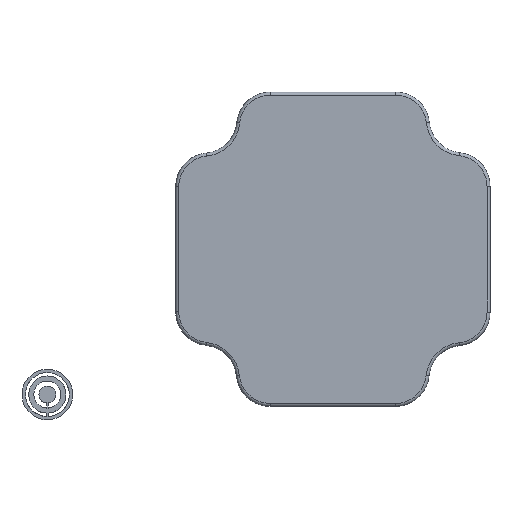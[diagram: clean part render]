
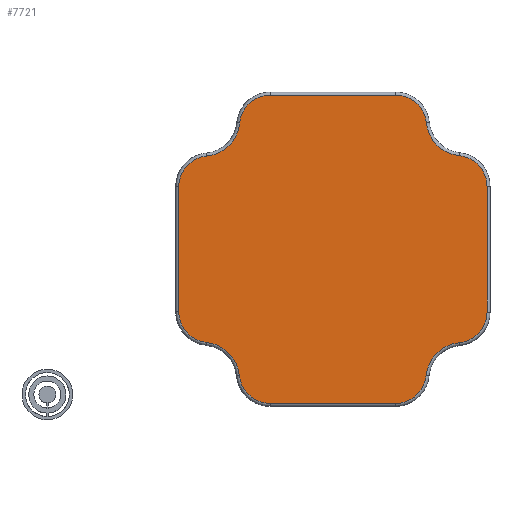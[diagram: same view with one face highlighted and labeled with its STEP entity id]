
A CAD part, front view. The second image highlights one B-rep face of the part: STEP entity #7721.
In plain terms, the highlighted planar face has unit normal (0, -1, 0).
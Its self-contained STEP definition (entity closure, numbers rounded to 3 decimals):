
#765=CIRCLE('',#8457,18.25);
#768=CIRCLE('',#8461,21.75);
#771=CIRCLE('',#8465,18.25);
#775=CIRCLE('',#8471,18.25);
#778=CIRCLE('',#8475,21.75);
#781=CIRCLE('',#8479,18.25);
#785=CIRCLE('',#8485,18.25);
#788=CIRCLE('',#8489,21.75);
#790=CIRCLE('',#8492,18.25);
#793=CIRCLE('',#8497,18.25);
#795=CIRCLE('',#8500,21.75);
#797=CIRCLE('',#8503,18.25);
#1595=FACE_OUTER_BOUND('',#2141,.T.);
#2141=EDGE_LOOP('',(#5574,#5575,#5576,#5577,#5578,#5579,#5580,#5581,#5582,
#5583,#5584,#5585,#5586,#5587,#5588,#5589));
#2760=LINE('',#13546,#3006);
#2762=LINE('',#13570,#3008);
#2763=LINE('',#13589,#3009);
#2764=LINE('',#13603,#3010);
#3006=VECTOR('',#10207,10.);
#3008=VECTOR('',#10237,10.);
#3009=VECTOR('',#10264,10.);
#3010=VECTOR('',#10285,10.);
#3350=VERTEX_POINT('',#13526);
#3351=VERTEX_POINT('',#13528);
#3352=VERTEX_POINT('',#13532);
#3353=VERTEX_POINT('',#13536);
#3355=VERTEX_POINT('',#13542);
#3357=VERTEX_POINT('',#13548);
#3359=VERTEX_POINT('',#13554);
#3361=VERTEX_POINT('',#13560);
#3363=VERTEX_POINT('',#13566);
#3365=VERTEX_POINT('',#13572);
#3367=VERTEX_POINT('',#13578);
#3368=VERTEX_POINT('',#13583);
#3369=VERTEX_POINT('',#13587);
#3370=VERTEX_POINT('',#13591);
#3371=VERTEX_POINT('',#13595);
#3372=VERTEX_POINT('',#13599);
#4196=EDGE_CURVE('',#3350,#3351,#765,.T.);
#4199=EDGE_CURVE('',#3351,#3352,#768,.T.);
#4202=EDGE_CURVE('',#3352,#3353,#771,.T.);
#4205=EDGE_CURVE('',#3353,#3355,#2760,.T.);
#4208=EDGE_CURVE('',#3355,#3357,#775,.T.);
#4211=EDGE_CURVE('',#3357,#3359,#778,.T.);
#4214=EDGE_CURVE('',#3359,#3361,#781,.T.);
#4217=EDGE_CURVE('',#3361,#3363,#2762,.T.);
#4220=EDGE_CURVE('',#3363,#3365,#785,.T.);
#4223=EDGE_CURVE('',#3365,#3367,#788,.T.);
#4225=EDGE_CURVE('',#3367,#3368,#790,.T.);
#4227=EDGE_CURVE('',#3368,#3369,#2763,.T.);
#4229=EDGE_CURVE('',#3369,#3370,#793,.T.);
#4231=EDGE_CURVE('',#3370,#3371,#795,.T.);
#4233=EDGE_CURVE('',#3371,#3372,#797,.T.);
#4234=EDGE_CURVE('',#3372,#3350,#2764,.T.);
#5574=ORIENTED_EDGE('',*,*,#4196,.F.);
#5575=ORIENTED_EDGE('',*,*,#4234,.F.);
#5576=ORIENTED_EDGE('',*,*,#4233,.F.);
#5577=ORIENTED_EDGE('',*,*,#4231,.F.);
#5578=ORIENTED_EDGE('',*,*,#4229,.F.);
#5579=ORIENTED_EDGE('',*,*,#4227,.F.);
#5580=ORIENTED_EDGE('',*,*,#4225,.F.);
#5581=ORIENTED_EDGE('',*,*,#4223,.F.);
#5582=ORIENTED_EDGE('',*,*,#4220,.F.);
#5583=ORIENTED_EDGE('',*,*,#4217,.F.);
#5584=ORIENTED_EDGE('',*,*,#4214,.F.);
#5585=ORIENTED_EDGE('',*,*,#4211,.F.);
#5586=ORIENTED_EDGE('',*,*,#4208,.F.);
#5587=ORIENTED_EDGE('',*,*,#4205,.F.);
#5588=ORIENTED_EDGE('',*,*,#4202,.F.);
#5589=ORIENTED_EDGE('',*,*,#4199,.F.);
#7484=PLANE('',#8506);
#7721=ADVANCED_FACE('',(#1595),#7484,.T.);
#8457=AXIS2_PLACEMENT_3D('',#13529,#10184,#10185);
#8461=AXIS2_PLACEMENT_3D('',#13534,#10192,#10193);
#8465=AXIS2_PLACEMENT_3D('',#13540,#10200,#10201);
#8471=AXIS2_PLACEMENT_3D('',#13552,#10214,#10215);
#8475=AXIS2_PLACEMENT_3D('',#13558,#10222,#10223);
#8479=AXIS2_PLACEMENT_3D('',#13564,#10230,#10231);
#8485=AXIS2_PLACEMENT_3D('',#13576,#10244,#10245);
#8489=AXIS2_PLACEMENT_3D('',#13581,#10252,#10253);
#8492=AXIS2_PLACEMENT_3D('',#13585,#10258,#10259);
#8497=AXIS2_PLACEMENT_3D('',#13593,#10269,#10270);
#8500=AXIS2_PLACEMENT_3D('',#13597,#10275,#10276);
#8503=AXIS2_PLACEMENT_3D('',#13601,#10281,#10282);
#8506=AXIS2_PLACEMENT_3D('',#13606,#10289,#10290);
#10184=DIRECTION('center_axis',(0.,1.,0.));
#10185=DIRECTION('ref_axis',(0.74,0.,-0.673));
#10192=DIRECTION('center_axis',(0.,-1.,0.));
#10193=DIRECTION('ref_axis',(-0.705,0.,0.709));
#10200=DIRECTION('center_axis',(0.,1.,0.));
#10201=DIRECTION('ref_axis',(0.671,0.,-0.742));
#10207=DIRECTION('',(-1.,0.,0.));
#10214=DIRECTION('center_axis',(0.,1.,0.));
#10215=DIRECTION('ref_axis',(-0.673,0.,-0.74));
#10222=DIRECTION('center_axis',(0.,-1.,0.));
#10223=DIRECTION('ref_axis',(0.709,0.,0.705));
#10230=DIRECTION('center_axis',(0.,1.,0.));
#10231=DIRECTION('ref_axis',(-0.742,0.,-0.671));
#10237=DIRECTION('',(0.,0.,1.));
#10244=DIRECTION('center_axis',(0.,1.,0.));
#10245=DIRECTION('ref_axis',(-0.74,0.,0.673));
#10252=DIRECTION('center_axis',(0.,-1.,0.));
#10253=DIRECTION('ref_axis',(0.707,0.,-0.707));
#10258=DIRECTION('center_axis',(0.,1.,0.));
#10259=DIRECTION('ref_axis',(-0.673,0.,0.74));
#10264=DIRECTION('',(1.,0.,0.));
#10269=DIRECTION('center_axis',(0.,1.,0.));
#10270=DIRECTION('ref_axis',(0.671,0.,0.742));
#10275=DIRECTION('center_axis',(0.,-1.,0.));
#10276=DIRECTION('ref_axis',(-0.707,0.,-0.707));
#10281=DIRECTION('center_axis',(0.,1.,0.));
#10282=DIRECTION('ref_axis',(0.742,0.,0.671));
#10285=DIRECTION('',(0.,0.,-1.));
#10289=DIRECTION('center_axis',(0.,-1.,0.));
#10290=DIRECTION('ref_axis',(0.,0.,-1.));
#13526=CARTESIAN_POINT('',(60.25,-8.,-51.181));
#13528=CARTESIAN_POINT('',(43.734,-8.,-69.348));
#13529=CARTESIAN_POINT('Origin',(42.,-8.,-51.181));
#13532=CARTESIAN_POINT('',(24.159,-8.,-88.825));
#13534=CARTESIAN_POINT('Origin',(45.799,-8.,-91.));
#13536=CARTESIAN_POINT('',(6.,-8.,-105.25));
#13540=CARTESIAN_POINT('Origin',(6.,-8.,-87.));
#13542=CARTESIAN_POINT('',(-68.181,-8.,-105.25));
#13546=CARTESIAN_POINT('',(-59.5,-8.,-105.25));
#13548=CARTESIAN_POINT('',(-86.348,-8.,-88.734));
#13552=CARTESIAN_POINT('Origin',(-68.181,-8.,-87.));
#13554=CARTESIAN_POINT('',(-105.825,-8.,-69.159));
#13558=CARTESIAN_POINT('Origin',(-108.,-8.,-90.799));
#13560=CARTESIAN_POINT('',(-122.25,-8.,-51.));
#13564=CARTESIAN_POINT('Origin',(-104.,-8.,-51.));
#13566=CARTESIAN_POINT('',(-122.25,-8.,23.));
#13570=CARTESIAN_POINT('',(-122.25,-8.,14.5));
#13572=CARTESIAN_POINT('',(-105.742,-8.,41.167));
#13576=CARTESIAN_POINT('Origin',(-104.,-8.,23.));
#13578=CARTESIAN_POINT('',(-86.167,-8.,60.742));
#13581=CARTESIAN_POINT('Origin',(-107.817,-8.,62.817));
#13583=CARTESIAN_POINT('',(-68.,-8.,77.25));
#13585=CARTESIAN_POINT('Origin',(-68.,-8.,59.));
#13587=CARTESIAN_POINT('',(6.201,-8.,77.25));
#13589=CARTESIAN_POINT('',(-2.5,-8.,77.25));
#13591=CARTESIAN_POINT('',(24.359,-8.,60.825));
#13593=CARTESIAN_POINT('Origin',(6.201,-8.,59.));
#13595=CARTESIAN_POINT('',(43.825,-8.,41.359));
#13597=CARTESIAN_POINT('Origin',(46.,-8.,63.));
#13599=CARTESIAN_POINT('',(60.25,-8.,23.201));
#13601=CARTESIAN_POINT('Origin',(42.,-8.,23.201));
#13603=CARTESIAN_POINT('',(60.25,-8.,-42.5));
#13606=CARTESIAN_POINT('Origin',(-31.,-8.,-14.));
